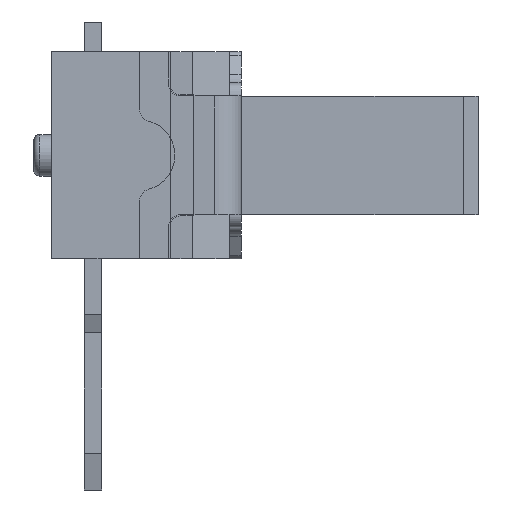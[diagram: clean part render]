
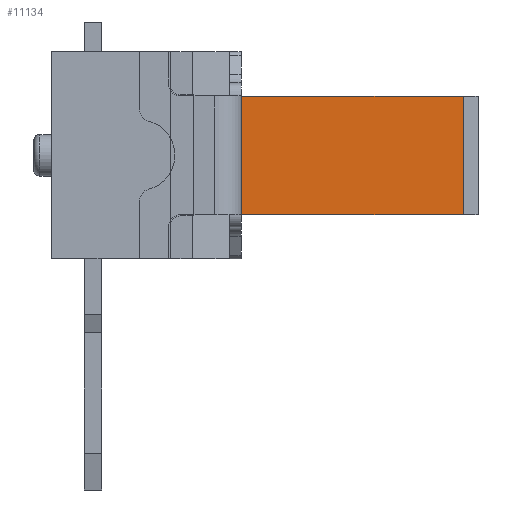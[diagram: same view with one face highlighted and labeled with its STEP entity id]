
A CAD part, left-side view. The second image highlights one B-rep face of the part: STEP entity #11134.
In plain terms, the highlighted planar face has unit normal (-1, 0, 0).
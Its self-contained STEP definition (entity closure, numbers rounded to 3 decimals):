
#38 = ORIENTED_EDGE ( 'NONE', *, *, #11157, .T. ) ;
#197 = CARTESIAN_POINT ( 'NONE',  ( -0.378, -0.886, 0.75 ) ) ;
#705 = VECTOR ( 'NONE', #11663, 1000. ) ;
#1704 = VECTOR ( 'NONE', #3774, 1000. ) ;
#1993 = EDGE_CURVE ( 'NONE', #14210, #8576, #4432, .T. ) ;
#2432 = CARTESIAN_POINT ( 'NONE',  ( -0.378, -0.886, 2.75 ) ) ;
#2449 = DIRECTION ( 'NONE',  ( 1., 0., 0. ) ) ;
#3420 = CARTESIAN_POINT ( 'NONE',  ( -0.378, -4.936, 2.75 ) ) ;
#3601 = ORIENTED_EDGE ( 'NONE', *, *, #16739, .F. ) ;
#3774 = DIRECTION ( 'NONE',  ( 0., 1., 0. ) ) ;
#4432 = LINE ( 'NONE', #197, #705 ) ;
#4754 = EDGE_LOOP ( 'NONE', ( #3601, #17363, #38, #12427 ) ) ;
#5396 = CARTESIAN_POINT ( 'NONE',  ( -0.378, -12.014, 0.75 ) ) ;
#6818 = VERTEX_POINT ( 'NONE', #9392 ) ;
#6895 = CARTESIAN_POINT ( 'NONE',  ( -0.378, -4.936, -3.9 ) ) ;
#8494 = CARTESIAN_POINT ( 'NONE',  ( -0.378, -12.014, 2.75 ) ) ;
#8576 = VERTEX_POINT ( 'NONE', #15025 ) ;
#9392 = CARTESIAN_POINT ( 'NONE',  ( -0.378, -4.936, 0.75 ) ) ;
#9858 = LINE ( 'NONE', #6895, #10633 ) ;
#9922 = LINE ( 'NONE', #8494, #14434 ) ;
#10633 = VECTOR ( 'NONE', #18387, 1000. ) ;
#11134 = ADVANCED_FACE ( 'NONE', ( #18641 ), #13020, .F. ) ;
#11157 = EDGE_CURVE ( 'NONE', #15422, #14210, #9922, .T. ) ;
#11663 = DIRECTION ( 'NONE',  ( 0., 0., -1. ) ) ;
#12068 = EDGE_CURVE ( 'NONE', #6818, #15422, #9858, .T. ) ;
#12427 = ORIENTED_EDGE ( 'NONE', *, *, #1993, .T. ) ;
#13020 = PLANE ( 'NONE',  #16271 ) ;
#14210 = VERTEX_POINT ( 'NONE', #2432 ) ;
#14216 = CARTESIAN_POINT ( 'NONE',  ( -0.378, -12.014, 0.75 ) ) ;
#14434 = VECTOR ( 'NONE', #16060, 1000. ) ;
#15025 = CARTESIAN_POINT ( 'NONE',  ( -0.378, -0.886, 0.75 ) ) ;
#15422 = VERTEX_POINT ( 'NONE', #3420 ) ;
#15960 = DIRECTION ( 'NONE',  ( 0., 0., 1. ) ) ;
#16060 = DIRECTION ( 'NONE',  ( 0., 1., 0. ) ) ;
#16271 = AXIS2_PLACEMENT_3D ( 'NONE', #14216, #2449, #15960 ) ;
#16739 = EDGE_CURVE ( 'NONE', #6818, #8576, #17008, .T. ) ;
#17008 = LINE ( 'NONE', #5396, #1704 ) ;
#17363 = ORIENTED_EDGE ( 'NONE', *, *, #12068, .T. ) ;
#18387 = DIRECTION ( 'NONE',  ( 0., 0., 1. ) ) ;
#18641 = FACE_OUTER_BOUND ( 'NONE', #4754, .T. ) ;
